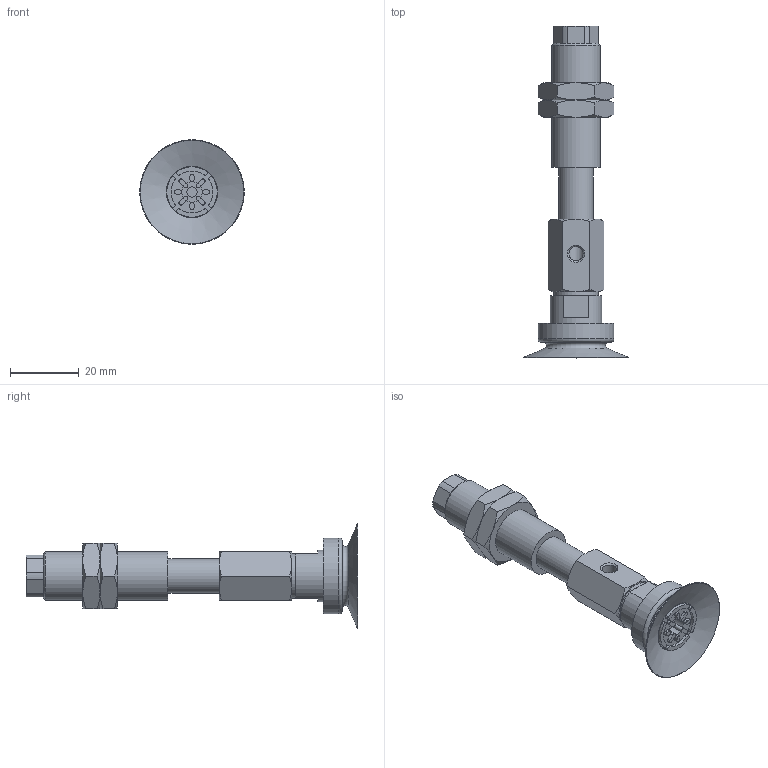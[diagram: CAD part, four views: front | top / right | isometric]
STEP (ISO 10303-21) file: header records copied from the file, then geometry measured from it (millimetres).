
FILE_DESCRIPTION(('STEP AP203'),'1');
FILE_NAME('.stp','2025-02-28T02:35:48',(' '),(' '),'Spatial InterOp 3D',' ',' ');
FILE_SCHEMA(('CONFIG_CONTROL_DESIGN'));
Length unit declared in the file: millimetre
Products named in the file (6): BNABPAYS-30-15-※; NAPAYS-30B-15--M; NAPAYS-30B-15--F; Nut-25-S; CONNECTOR-30B-15-PA; BPAG-30-※
Assembly tree (6 placements, depth 2):
  BNABPAYS-30-15-※
    NAPAYS-30B-15--M
    NAPAYS-30B-15--F
    Nut-25-S  x2
    CONNECTOR-30B-15-PA
    BPAG-30-※
Bounding box: 30.3 x 96.2 x 30.3 mm (x, y, z)
Volume: 16134.1 mm3; surface area: 11922.9 mm2
Topology: 6 solids, 6 shells, 198 faces, 454 edges, 285 vertices
Faces by surface type: plane 87, cylinder 58, cone 51, torus 2
Full cylindrical faces by diameter (mm): 3 x2, 4.134 x2, 4.6 x1, 4.917 x1, 5 x1, 6 x1, 10 x2, 12.917 x2, 13 x1, 14 x1, 15 x1, 22 x1
Entity records: 5432 total; most frequent: CARTESIAN_POINT 1205, DIRECTION 852, ORIENTED_EDGE 750, EDGE_CURVE 375, AXIS2_PLACEMENT_3D 346, VERTEX_POINT 255, EDGE_LOOP 230, FACE_OUTER_BOUND 192
